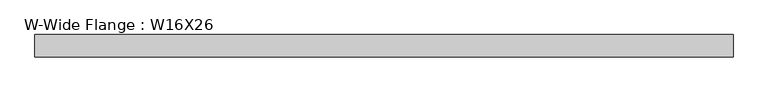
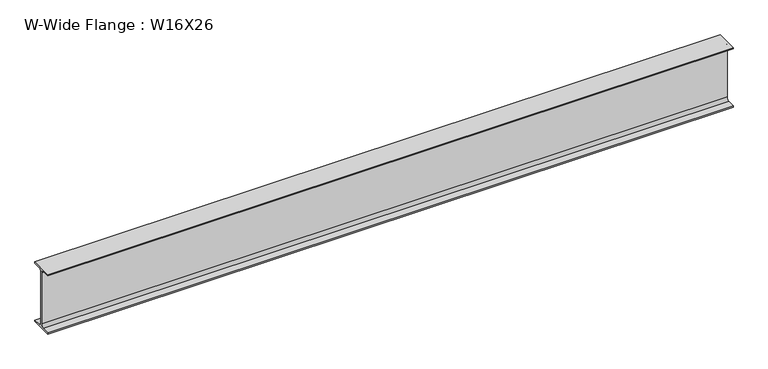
"""IFC4 building model written with IfcOpenShell, lengths in millimetres: beam geometry, W-Wide Flange : W16X26."""

from ifc_helpers import new_model, si_unit, point, frame, frame_2d, origin, place, context, project, spatial, polyline, circle_curve, trimmed, segment, composite_curve, outline, extrude, source, transform, mapped, element, save


def w_wide_flange_w16x26_7aca6ae6(model_context):
    return source(origin(), model_context, "Body", "SweptSolid", [
        extrude(outline(composite_curve([segment(polyline([(69.85, -190.5496094), (69.85, -199.2808594), (-69.85, -199.2808594), (-69.85, -190.5496094), (-21.43125, -190.5496094)]), True, "CONTINUOUS"), segment(trimmed(circle_curve(frame_2d((-21.43125, -172.2933594)), 18.25625), [point((-21.43125, -190.5496094))], [point((-3.175, -172.2933594))], True, "CARTESIAN"), True, "CONTINUOUS"), segment(polyline([(-3.175, -172.2933594), (-3.175, 172.2933594)]), True, "CONTINUOUS"), segment(trimmed(circle_curve(frame_2d((-21.43125, 172.2933594)), 18.25625), [point((-3.175, 172.2933594))], [point((-21.43125, 190.5496094))], True, "CARTESIAN"), True, "CONTINUOUS"), segment(polyline([(-21.43125, 190.5496094), (-69.85, 190.5496094), (-69.85, 199.2808594), (69.85, 199.2808594), (69.85, 190.5496094), (21.43125, 190.5496094)]), True, "CONTINUOUS"), segment(trimmed(circle_curve(frame_2d((21.43125, 172.2933594)), 18.25625), [point((21.43125, 190.5496094))], [point((3.175, 172.2933594))], True, "CARTESIAN"), True, "CONTINUOUS"), segment(polyline([(3.175, 172.2933594), (3.175, -172.2933594)]), True, "CONTINUOUS"), segment(trimmed(circle_curve(frame_2d((21.43125, -172.2933594)), 18.25625), [point((3.175, -172.2933594))], [point((21.43125, -190.5496094))], True, "CARTESIAN"), True, "CONTINUOUS"), segment(polyline([(21.43125, -190.5496094), (69.85, -190.5496094)]), True, "CONTINUOUS")], self_intersect=False)), frame((-2178.0190902, 0.0, 0.0), z_axis=(1.0, 0.0, 0.0), x_axis=(0.0, 1.0, 0.0)), (0.0, 0.0, 1.0), 4343.685446),
    ])


if __name__ == "__main__":
    model = new_model("IFC4")
    model_context = context("Model", 3, world=origin())
    ifc_project = project(units=[si_unit("LENGTHUNIT", "METRE", prefix="MILLI")], contexts=[model_context])
    site = spatial("IfcSite", under=ifc_project)
    building = spatial("IfcBuilding", under=site)
    placement = place(None, origin())
    w_wide_flange_w16x26_shape = w_wide_flange_w16x26_7aca6ae6(model_context)
    element("IfcBeam", 1, ObjectType="W-Wide Flange : W16X26", at=placement, inside=building, context=model_context, shape_type="MappedRepresentation", body=[
        mapped(w_wide_flange_w16x26_shape, transform((0.0, 0.0, 0.0), x_axis=(1.0, 0.0, 0.0), y_axis=(0.0, 1.0, 0.0), z_axis=(0.0, 0.0, 1.0))),
    ])
    save(model, "model.ifc")
